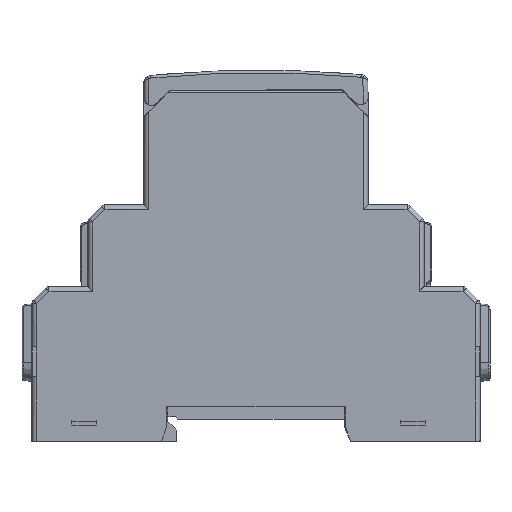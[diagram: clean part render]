
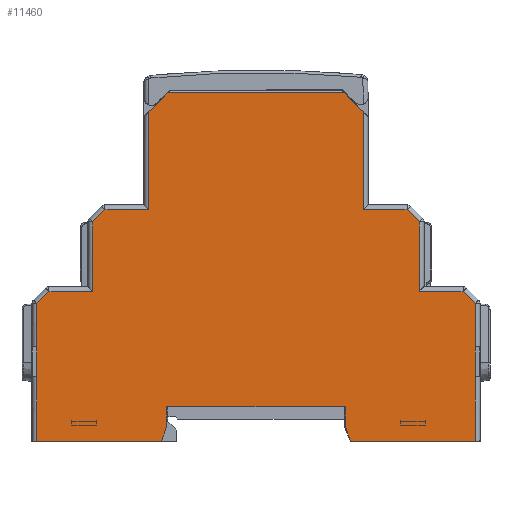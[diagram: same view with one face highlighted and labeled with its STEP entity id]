
A CAD part, left-side view. The second image highlights one B-rep face of the part: STEP entity #11460.
In plain terms, the highlighted planar face has unit normal (-1, 0, 0).
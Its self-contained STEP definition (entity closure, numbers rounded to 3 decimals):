
#1210=FACE_OUTER_BOUND($,#1788,.T.);
#1788=EDGE_LOOP($,(#8811,#8812,#8813,#8814,#8815,#8816,#8817,#8818,#8819,
#8820,#8821,#8822,#8823,#8824,#8825,#8826,#8827,#8828,#8829,#8830,#8831,
#8832,#8833,#8834,#8835,#8836,#8837,#8838));
#2287=LINE($,#16362,#3486);
#2303=LINE($,#16398,#3502);
#2534=LINE($,#17198,#3733);
#2550=LINE($,#17247,#3749);
#2779=LINE($,#18058,#3978);
#2780=LINE($,#18060,#3979);
#2781=LINE($,#18062,#3980);
#2782=LINE($,#18064,#3981);
#2783=LINE($,#18066,#3982);
#2784=LINE($,#18068,#3983);
#2785=LINE($,#18070,#3984);
#2786=LINE($,#18072,#3985);
#2787=LINE($,#18074,#3986);
#2788=LINE($,#18076,#3987);
#2789=LINE($,#18078,#3988);
#2790=LINE($,#18080,#3989);
#2791=LINE($,#18082,#3990);
#2792=LINE($,#18084,#3991);
#2793=LINE($,#18086,#3992);
#2794=LINE($,#18088,#3993);
#2795=LINE($,#18089,#3994);
#2796=LINE($,#18090,#3995);
#2797=LINE($,#18092,#3996);
#2798=LINE($,#18094,#3997);
#2799=LINE($,#18096,#3998);
#2800=LINE($,#18098,#3999);
#2801=LINE($,#18099,#4000);
#2802=LINE($,#18100,#4001);
#3486=VECTOR($,#13008,6.);
#3502=VECTOR($,#13030,6.);
#3733=VECTOR($,#13653,25.);
#3749=VECTOR($,#13697,25.);
#3978=VECTOR($,#14212,8.686);
#3979=VECTOR($,#14213,3.414);
#3980=VECTOR($,#14214,8.836);
#3981=VECTOR($,#14215,13.986);
#3982=VECTOR($,#14216,3.414);
#3983=VECTOR($,#14217,8.836);
#3984=VECTOR($,#14218,19.8);
#3985=VECTOR($,#14219,5.233);
#3986=VECTOR($,#14220,35.6);
#3987=VECTOR($,#14221,5.233);
#3988=VECTOR($,#14222,19.8);
#3989=VECTOR($,#14223,8.836);
#3990=VECTOR($,#14224,3.414);
#3991=VECTOR($,#14225,13.986);
#3992=VECTOR($,#14226,8.836);
#3993=VECTOR($,#14227,3.414);
#3994=VECTOR($,#14228,8.686);
#3995=VECTOR($,#14229,13.);
#3996=VECTOR($,#14230,3.178);
#3997=VECTOR($,#14231,4.);
#3998=VECTOR($,#14232,35.9);
#3999=VECTOR($,#14233,4.);
#4000=VECTOR($,#14234,3.178);
#4001=VECTOR($,#14235,13.);
#4679=VERTEX_POINT($,#16356);
#4681=VERTEX_POINT($,#16360);
#4696=VERTEX_POINT($,#16394);
#4698=VERTEX_POINT($,#16397);
#4987=VERTEX_POINT($,#17188);
#4991=VERTEX_POINT($,#17196);
#5009=VERTEX_POINT($,#17244);
#5010=VERTEX_POINT($,#17246);
#5293=VERTEX_POINT($,#18057);
#5294=VERTEX_POINT($,#18059);
#5295=VERTEX_POINT($,#18061);
#5296=VERTEX_POINT($,#18063);
#5297=VERTEX_POINT($,#18065);
#5298=VERTEX_POINT($,#18067);
#5299=VERTEX_POINT($,#18069);
#5300=VERTEX_POINT($,#18071);
#5301=VERTEX_POINT($,#18073);
#5302=VERTEX_POINT($,#18075);
#5303=VERTEX_POINT($,#18077);
#5304=VERTEX_POINT($,#18079);
#5305=VERTEX_POINT($,#18081);
#5306=VERTEX_POINT($,#18083);
#5307=VERTEX_POINT($,#18085);
#5308=VERTEX_POINT($,#18087);
#5309=VERTEX_POINT($,#18091);
#5310=VERTEX_POINT($,#18093);
#5311=VERTEX_POINT($,#18095);
#5312=VERTEX_POINT($,#18097);
#5967=EDGE_CURVE($,#4679,#4681,#2287,.T.);
#5983=EDGE_CURVE($,#4698,#4696,#2303,.T.);
#6333=EDGE_CURVE($,#4987,#4991,#2534,.T.);
#6356=EDGE_CURVE($,#5010,#5009,#2550,.T.);
#6714=EDGE_CURVE($,#4696,#5293,#2779,.T.);
#6715=EDGE_CURVE($,#5293,#5294,#2780,.T.);
#6716=EDGE_CURVE($,#5294,#5295,#2781,.T.);
#6717=EDGE_CURVE($,#5295,#5296,#2782,.T.);
#6718=EDGE_CURVE($,#5296,#5297,#2783,.T.);
#6719=EDGE_CURVE($,#5297,#5298,#2784,.T.);
#6720=EDGE_CURVE($,#5298,#5299,#2785,.T.);
#6721=EDGE_CURVE($,#5299,#5300,#2786,.T.);
#6722=EDGE_CURVE($,#5300,#5301,#2787,.T.);
#6723=EDGE_CURVE($,#5302,#5301,#2788,.T.);
#6724=EDGE_CURVE($,#5302,#5303,#2789,.T.);
#6725=EDGE_CURVE($,#5303,#5304,#2790,.T.);
#6726=EDGE_CURVE($,#5304,#5305,#2791,.T.);
#6727=EDGE_CURVE($,#5305,#5306,#2792,.T.);
#6728=EDGE_CURVE($,#5306,#5307,#2793,.T.);
#6729=EDGE_CURVE($,#5307,#5308,#2794,.T.);
#6730=EDGE_CURVE($,#5308,#4679,#2795,.T.);
#6731=EDGE_CURVE($,#4681,#4987,#2796,.T.);
#6732=EDGE_CURVE($,#5309,#4991,#2797,.T.);
#6733=EDGE_CURVE($,#5310,#5309,#2798,.T.);
#6734=EDGE_CURVE($,#5311,#5310,#2799,.T.);
#6735=EDGE_CURVE($,#5312,#5311,#2800,.T.);
#6736=EDGE_CURVE($,#5010,#5312,#2801,.T.);
#6737=EDGE_CURVE($,#5009,#4698,#2802,.T.);
#8811=ORIENTED_EDGE($,*,*,#6714,.T.);
#8812=ORIENTED_EDGE($,*,*,#6715,.T.);
#8813=ORIENTED_EDGE($,*,*,#6716,.T.);
#8814=ORIENTED_EDGE($,*,*,#6717,.T.);
#8815=ORIENTED_EDGE($,*,*,#6718,.T.);
#8816=ORIENTED_EDGE($,*,*,#6719,.T.);
#8817=ORIENTED_EDGE($,*,*,#6720,.T.);
#8818=ORIENTED_EDGE($,*,*,#6721,.T.);
#8819=ORIENTED_EDGE($,*,*,#6722,.T.);
#8820=ORIENTED_EDGE($,*,*,#6723,.F.);
#8821=ORIENTED_EDGE($,*,*,#6724,.T.);
#8822=ORIENTED_EDGE($,*,*,#6725,.T.);
#8823=ORIENTED_EDGE($,*,*,#6726,.T.);
#8824=ORIENTED_EDGE($,*,*,#6727,.T.);
#8825=ORIENTED_EDGE($,*,*,#6728,.T.);
#8826=ORIENTED_EDGE($,*,*,#6729,.T.);
#8827=ORIENTED_EDGE($,*,*,#6730,.T.);
#8828=ORIENTED_EDGE($,*,*,#5967,.T.);
#8829=ORIENTED_EDGE($,*,*,#6731,.T.);
#8830=ORIENTED_EDGE($,*,*,#6333,.T.);
#8831=ORIENTED_EDGE($,*,*,#6732,.F.);
#8832=ORIENTED_EDGE($,*,*,#6733,.F.);
#8833=ORIENTED_EDGE($,*,*,#6734,.F.);
#8834=ORIENTED_EDGE($,*,*,#6735,.F.);
#8835=ORIENTED_EDGE($,*,*,#6736,.F.);
#8836=ORIENTED_EDGE($,*,*,#6356,.T.);
#8837=ORIENTED_EDGE($,*,*,#6737,.T.);
#8838=ORIENTED_EDGE($,*,*,#5983,.T.);
#11157=PLANE($,#12258);
#11460=ADVANCED_FACE($,(#1210),#11157,.F.);
#12258=AXIS2_PLACEMENT_3D($,#18056,#14210,#14211);
#13008=DIRECTION($,(0.,0.,-1.));
#13030=DIRECTION($,(0.,0.,1.));
#13653=DIRECTION($,(0.,-1.,0.));
#13697=DIRECTION($,(0.,-1.,0.));
#14210=DIRECTION('center_axis',(1.,0.,0.));
#14211=DIRECTION('ref_axis',(0.,0.,-1.));
#14212=DIRECTION($,(0.,0.,1.));
#14213=DIRECTION($,(0.,0.707,0.707));
#14214=DIRECTION($,(0.,1.,0.));
#14215=DIRECTION($,(0.,0.,1.));
#14216=DIRECTION($,(0.,0.707,0.707));
#14217=DIRECTION($,(0.,1.,0.));
#14218=DIRECTION($,(0.,0.,1.));
#14219=DIRECTION($,(0.,0.707,0.707));
#14220=DIRECTION($,(0.,1.,0.));
#14221=DIRECTION($,(0.,-0.707,0.707));
#14222=DIRECTION($,(0.,0.,-1.));
#14223=DIRECTION($,(0.,1.,0.));
#14224=DIRECTION($,(0.,0.707,-0.707));
#14225=DIRECTION($,(0.,0.,-1.));
#14226=DIRECTION($,(0.,1.,0.));
#14227=DIRECTION($,(0.,0.707,-0.707));
#14228=DIRECTION($,(0.,0.,-1.));
#14229=DIRECTION($,(0.,0.,-1.));
#14230=DIRECTION($,(0.,0.33,-0.944));
#14231=DIRECTION($,(0.,0.,-1.));
#14232=DIRECTION($,(0.,1.,0.));
#14233=DIRECTION($,(0.,0.,1.));
#14234=DIRECTION($,(0.,0.33,0.944));
#14235=DIRECTION($,(0.,0.,1.));
#16356=CARTESIAN_POINT('',(-18.,44.002,11.3));
#16360=CARTESIAN_POINT('',(-18.,44.002,5.3));
#16362=CARTESIAN_POINT($,(-18.,44.002,11.3));
#16394=CARTESIAN_POINT('',(-18.,-43.998,11.3));
#16397=CARTESIAN_POINT('',(-18.,-43.998,5.3));
#16398=CARTESIAN_POINT($,(-18.,-43.998,5.3));
#17188=CARTESIAN_POINT('',(-18.,44.002,-7.7));
#17196=CARTESIAN_POINT('',(-18.,19.002,-7.7));
#17198=CARTESIAN_POINT($,(-18.,-44.998,-7.7));
#17244=CARTESIAN_POINT('',(-18.,-43.998,-7.7));
#17246=CARTESIAN_POINT('',(-18.,-18.998,-7.7));
#17247=CARTESIAN_POINT($,(-18.,-44.998,-7.7));
#18056=CARTESIAN_POINT('Origin',(-18.,45.002,23.4));
#18057=CARTESIAN_POINT('',(-18.,-43.998,19.986));
#18058=CARTESIAN_POINT($,(-18.,-43.998,23.4));
#18059=CARTESIAN_POINT('',(-18.,-41.584,22.4));
#18060=CARTESIAN_POINT($,(-18.,-41.291,22.693));
#18061=CARTESIAN_POINT('',(-18.,-32.748,22.4));
#18062=CARTESIAN_POINT($,(-18.,45.002,22.4));
#18063=CARTESIAN_POINT('',(-18.,-32.748,36.386));
#18064=CARTESIAN_POINT($,(-18.,-32.748,23.4));
#18065=CARTESIAN_POINT('',(-18.,-30.334,38.8));
#18066=CARTESIAN_POINT($,(-18.,-30.041,39.093));
#18067=CARTESIAN_POINT('',(-18.,-21.498,38.8));
#18068=CARTESIAN_POINT($,(-18.,45.002,38.8));
#18069=CARTESIAN_POINT('',(-18.,-21.498,58.6));
#18070=CARTESIAN_POINT($,(-18.,-21.498,23.4));
#18071=CARTESIAN_POINT('',(-18.,-17.798,62.3));
#18072=CARTESIAN_POINT($,(-18.,-22.498,57.6));
#18073=CARTESIAN_POINT('',(-18.,17.802,62.3));
#18074=CARTESIAN_POINT($,(-18.,45.002,62.3));
#18075=CARTESIAN_POINT('',(-18.,21.502,58.6));
#18076=CARTESIAN_POINT($,(-18.,22.502,57.6));
#18077=CARTESIAN_POINT('',(-18.,21.502,38.8));
#18078=CARTESIAN_POINT($,(-18.,21.502,23.4));
#18079=CARTESIAN_POINT('',(-18.,30.338,38.8));
#18080=CARTESIAN_POINT($,(-18.,45.002,38.8));
#18081=CARTESIAN_POINT('',(-18.,32.752,36.386));
#18082=CARTESIAN_POINT($,(-18.,33.045,36.093));
#18083=CARTESIAN_POINT('',(-18.,32.752,22.4));
#18084=CARTESIAN_POINT($,(-18.,32.752,23.4));
#18085=CARTESIAN_POINT('',(-18.,41.588,22.4));
#18086=CARTESIAN_POINT($,(-18.,45.002,22.4));
#18087=CARTESIAN_POINT('',(-18.,44.002,19.986));
#18088=CARTESIAN_POINT($,(-18.,44.295,19.693));
#18089=CARTESIAN_POINT($,(-18.,44.002,23.4));
#18090=CARTESIAN_POINT($,(-18.,44.002,23.4));
#18091=CARTESIAN_POINT('',(-18.,17.952,-4.7));
#18092=CARTESIAN_POINT($,(-18.,19.002,-7.7));
#18093=CARTESIAN_POINT('',(-18.,17.952,-0.7));
#18094=CARTESIAN_POINT($,(-18.,17.952,-4.7));
#18095=CARTESIAN_POINT('',(-18.,-17.948,-0.7));
#18096=CARTESIAN_POINT($,(-18.,-19.066,-0.7));
#18097=CARTESIAN_POINT('',(-18.,-17.948,-4.7));
#18098=CARTESIAN_POINT($,(-18.,-17.948,-4.7));
#18099=CARTESIAN_POINT($,(-18.,-18.998,-7.7));
#18100=CARTESIAN_POINT($,(-18.,-43.998,23.4));
